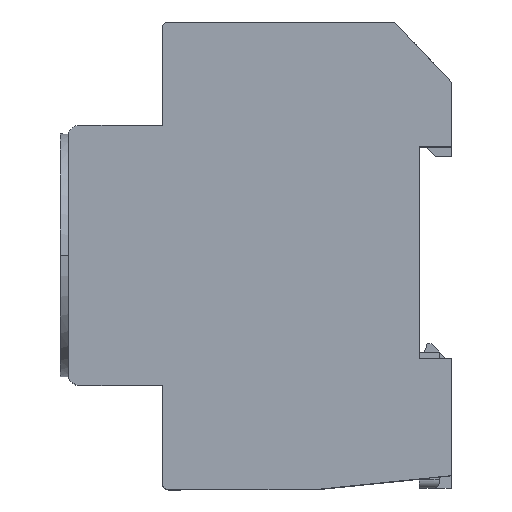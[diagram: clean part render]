
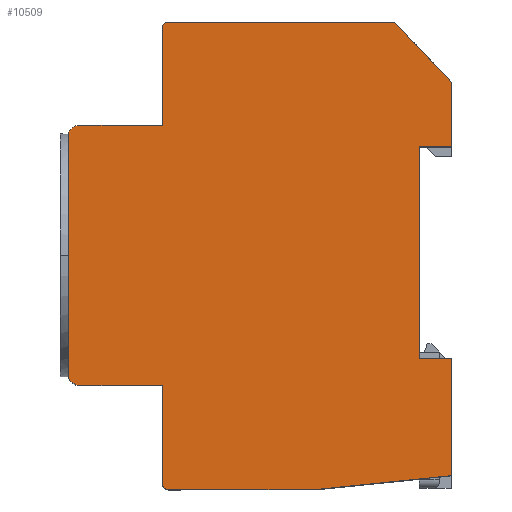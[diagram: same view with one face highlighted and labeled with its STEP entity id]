
A CAD part, top view. The second image highlights one B-rep face of the part: STEP entity #10509.
In plain terms, the highlighted planar face has unit normal (0, 0, 1).
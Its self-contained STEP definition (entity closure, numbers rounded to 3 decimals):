
#38 = VERTEX_POINT ( 'NONE', #11112 ) ;
#230 = ORIENTED_EDGE ( 'NONE', *, *, #5940, .F. ) ;
#248 = EDGE_CURVE ( 'NONE', #4969, #7939, #1623, .T. ) ;
#476 = EDGE_CURVE ( 'NONE', #10060, #9816, #7246, .T. ) ;
#525 = VECTOR ( 'NONE', #11940, 1000. ) ;
#719 = CARTESIAN_POINT ( 'NONE',  ( -14.3, 20., 44.3 ) ) ;
#847 = VERTEX_POINT ( 'NONE', #10214 ) ;
#947 = CARTESIAN_POINT ( 'NONE',  ( 0., 0., 44.3 ) ) ;
#1159 = LINE ( 'NONE', #3842, #12107 ) ;
#1333 = ORIENTED_EDGE ( 'NONE', *, *, #248, .F. ) ;
#1340 = DIRECTION ( 'NONE',  ( -1., 0., 0. ) ) ;
#1541 = AXIS2_PLACEMENT_3D ( 'NONE', #10105, #2372, #1340 ) ;
#1623 = LINE ( 'NONE', #9556, #10000 ) ;
#1685 = DIRECTION ( 'NONE',  ( 0., 0., 1. ) ) ;
#1700 = ORIENTED_EDGE ( 'NONE', *, *, #7341, .F. ) ;
#1792 = VERTEX_POINT ( 'NONE', #7991 ) ;
#1968 = CARTESIAN_POINT ( 'NONE',  ( 40.1, 80.8, 44.3 ) ) ;
#1980 = DIRECTION ( 'NONE',  ( 1., 0., 0. ) ) ;
#2109 = FACE_OUTER_BOUND ( 'NONE', #9469, .T. ) ;
#2178 = CARTESIAN_POINT ( 'NONE',  ( 50., 22.7, 44.3 ) ) ;
#2230 = EDGE_CURVE ( 'NONE', #5289, #12624, #11678, .T. ) ;
#2241 = EDGE_CURVE ( 'NONE', #4307, #10060, #3127, .T. ) ;
#2247 = VERTEX_POINT ( 'NONE', #3190 ) ;
#2372 = DIRECTION ( 'NONE',  ( 0., 0., 1. ) ) ;
#2546 = ORIENTED_EDGE ( 'NONE', *, *, #3907, .F. ) ;
#2788 = CIRCLE ( 'NONE', #1541, 2. ) ;
#2802 = CARTESIAN_POINT ( 'NONE',  ( 50., 80.8, 44.3 ) ) ;
#3022 = ORIENTED_EDGE ( 'NONE', *, *, #476, .F. ) ;
#3031 = VERTEX_POINT ( 'NONE', #4212 ) ;
#3127 = LINE ( 'NONE', #5224, #11476 ) ;
#3190 = CARTESIAN_POINT ( 'NONE',  ( -14.3, 63., 44.3 ) ) ;
#3287 = VERTEX_POINT ( 'NONE', #6962 ) ;
#3402 = ORIENTED_EDGE ( 'NONE', *, *, #11186, .F. ) ;
#3434 = VERTEX_POINT ( 'NONE', #2178 ) ;
#3513 = AXIS2_PLACEMENT_3D ( 'NONE', #11059, #10020, #8103 ) ;
#3559 = EDGE_CURVE ( 'NONE', #2247, #10095, #2788, .T. ) ;
#3688 = AXIS2_PLACEMENT_3D ( 'NONE', #719, #1685, #9547 ) ;
#3842 = CARTESIAN_POINT ( 'NONE',  ( 50., 22.7, 44.3 ) ) ;
#3907 = EDGE_CURVE ( 'NONE', #3287, #3031, #10985, .T. ) ;
#4095 = DIRECTION ( 'NONE',  ( 0., -1., 0. ) ) ;
#4191 = EDGE_CURVE ( 'NONE', #8818, #4307, #5725, .T. ) ;
#4212 = CARTESIAN_POINT ( 'NONE',  ( 40.1, 80.8, 44.3 ) ) ;
#4305 = VECTOR ( 'NONE', #8795, 1000. ) ;
#4307 = VERTEX_POINT ( 'NONE', #6172 ) ;
#4327 = EDGE_CURVE ( 'NONE', #11884, #38, #8914, .T. ) ;
#4403 = VECTOR ( 'NONE', #10904, 1000. ) ;
#4727 = LINE ( 'NONE', #7796, #12311 ) ;
#4789 = DIRECTION ( 'NONE',  ( -1., 0., 0. ) ) ;
#4882 = CARTESIAN_POINT ( 'NONE',  ( -16.3, 63., 44.3 ) ) ;
#4969 = VERTEX_POINT ( 'NONE', #10428 ) ;
#4984 = CARTESIAN_POINT ( 'NONE',  ( 50., 2.4, 44.3 ) ) ;
#5138 = LINE ( 'NONE', #12231, #8142 ) ;
#5211 = LINE ( 'NONE', #5467, #8191 ) ;
#5224 = CARTESIAN_POINT ( 'NONE',  ( 44.4, 59.2, 44.3 ) ) ;
#5286 = VECTOR ( 'NONE', #10255, 1000. ) ;
#5289 = VERTEX_POINT ( 'NONE', #11499 ) ;
#5329 = CARTESIAN_POINT ( 'NONE',  ( 44.4, 22.7, 44.3 ) ) ;
#5399 = CARTESIAN_POINT ( 'NONE',  ( 50., 0., 44.3 ) ) ;
#5467 = CARTESIAN_POINT ( 'NONE',  ( 0., 63., 44.3 ) ) ;
#5531 = DIRECTION ( 'NONE',  ( -1., 0., 0. ) ) ;
#5725 = LINE ( 'NONE', #2802, #9106 ) ;
#5867 = DIRECTION ( 'NONE',  ( 0.686, -0.728, 0. ) ) ;
#5890 = CARTESIAN_POINT ( 'NONE',  ( -16.3, 61., 44.3 ) ) ;
#5940 = EDGE_CURVE ( 'NONE', #9816, #3434, #4727, .T. ) ;
#5941 = DIRECTION ( 'NONE',  ( 0., 0., -1. ) ) ;
#6019 = CARTESIAN_POINT ( 'NONE',  ( -16.3, 18., 44.3 ) ) ;
#6170 = LINE ( 'NONE', #5399, #5286 ) ;
#6172 = CARTESIAN_POINT ( 'NONE',  ( 50., 59.2, 44.3 ) ) ;
#6179 = DIRECTION ( 'NONE',  ( 0., 1., 0. ) ) ;
#6199 = AXIS2_PLACEMENT_3D ( 'NONE', #7660, #9643, #9518 ) ;
#6368 = VERTEX_POINT ( 'NONE', #6823 ) ;
#6370 = EDGE_CURVE ( 'NONE', #3287, #1792, #11704, .T. ) ;
#6401 = ORIENTED_EDGE ( 'NONE', *, *, #3559, .T. ) ;
#6734 = ORIENTED_EDGE ( 'NONE', *, *, #10148, .F. ) ;
#6823 = CARTESIAN_POINT ( 'NONE',  ( -16.3, 20., 44.3 ) ) ;
#6876 = LINE ( 'NONE', #4882, #4305 ) ;
#6945 = CARTESIAN_POINT ( 'NONE',  ( 0., 80.8, 44.3 ) ) ;
#6962 = CARTESIAN_POINT ( 'NONE',  ( 1., 80.8, 44.3 ) ) ;
#7052 = ORIENTED_EDGE ( 'NONE', *, *, #12392, .T. ) ;
#7183 = CARTESIAN_POINT ( 'NONE',  ( 44.4, 57.6, 44.3 ) ) ;
#7218 = ORIENTED_EDGE ( 'NONE', *, *, #11102, .F. ) ;
#7246 = LINE ( 'NONE', #7183, #9787 ) ;
#7341 = EDGE_CURVE ( 'NONE', #5289, #4969, #5138, .T. ) ;
#7394 = EDGE_CURVE ( 'NONE', #38, #12624, #6170, .T. ) ;
#7404 = ORIENTED_EDGE ( 'NONE', *, *, #2241, .F. ) ;
#7614 = CARTESIAN_POINT ( 'NONE',  ( -14.3, 18., 44.3 ) ) ;
#7660 = CARTESIAN_POINT ( 'NONE',  ( 1., 79.8, 44.3 ) ) ;
#7796 = CARTESIAN_POINT ( 'NONE',  ( 44.4, 22.7, 44.3 ) ) ;
#7822 = ORIENTED_EDGE ( 'NONE', *, *, #8547, .F. ) ;
#7939 = VERTEX_POINT ( 'NONE', #7614 ) ;
#7991 = CARTESIAN_POINT ( 'NONE',  ( 0., 79.8, 44.3 ) ) ;
#8012 = DIRECTION ( 'NONE',  ( 0., -1., 0. ) ) ;
#8103 = DIRECTION ( 'NONE',  ( -1., 0., 0. ) ) ;
#8142 = VECTOR ( 'NONE', #9236, 1000. ) ;
#8191 = VECTOR ( 'NONE', #6179, 1000. ) ;
#8523 = ORIENTED_EDGE ( 'NONE', *, *, #2230, .T. ) ;
#8547 = EDGE_CURVE ( 'NONE', #3031, #8818, #12636, .T. ) ;
#8565 = ORIENTED_EDGE ( 'NONE', *, *, #6370, .T. ) ;
#8587 = CARTESIAN_POINT ( 'NONE',  ( 44.4, 59.2, 44.3 ) ) ;
#8704 = DIRECTION ( 'NONE',  ( 0., 1., 0. ) ) ;
#8756 = PLANE ( 'NONE',  #9874 ) ;
#8795 = DIRECTION ( 'NONE',  ( 1., 0., 0. ) ) ;
#8813 = VECTOR ( 'NONE', #8704, 1000. ) ;
#8818 = VERTEX_POINT ( 'NONE', #11675 ) ;
#8914 = LINE ( 'NONE', #11924, #4403 ) ;
#9027 = CARTESIAN_POINT ( 'NONE',  ( 1., 0., 44.3 ) ) ;
#9106 = VECTOR ( 'NONE', #12565, 1000. ) ;
#9236 = DIRECTION ( 'NONE',  ( 0., 1., 0. ) ) ;
#9469 = EDGE_LOOP ( 'NONE', ( #7404, #10849, #7822, #2546, #8565, #3402, #7218, #6401, #10895, #7052, #1333, #1700, #8523, #11781, #10915, #6734, #230, #3022 ) ) ;
#9518 = DIRECTION ( 'NONE',  ( -1., 0., 0. ) ) ;
#9547 = DIRECTION ( 'NONE',  ( -1., 0., 0. ) ) ;
#9556 = CARTESIAN_POINT ( 'NONE',  ( 0., 18., 44.3 ) ) ;
#9643 = DIRECTION ( 'NONE',  ( 0., 0., 1. ) ) ;
#9787 = VECTOR ( 'NONE', #8012, 1000. ) ;
#9816 = VERTEX_POINT ( 'NONE', #5329 ) ;
#9874 = AXIS2_PLACEMENT_3D ( 'NONE', #947, #5941, #4789 ) ;
#10000 = VECTOR ( 'NONE', #5531, 1000. ) ;
#10014 = CIRCLE ( 'NONE', #3688, 2. ) ;
#10020 = DIRECTION ( 'NONE',  ( 0., 0., 1. ) ) ;
#10060 = VERTEX_POINT ( 'NONE', #8587 ) ;
#10095 = VERTEX_POINT ( 'NONE', #5890 ) ;
#10105 = CARTESIAN_POINT ( 'NONE',  ( -14.3, 61., 44.3 ) ) ;
#10148 = EDGE_CURVE ( 'NONE', #3434, #11884, #1159, .T. ) ;
#10214 = CARTESIAN_POINT ( 'NONE',  ( 0., 63., 44.3 ) ) ;
#10255 = DIRECTION ( 'NONE',  ( -1., 0., 0. ) ) ;
#10428 = CARTESIAN_POINT ( 'NONE',  ( 0., 18., 44.3 ) ) ;
#10509 = ADVANCED_FACE ( 'NONE', ( #2109 ), #8756, .F. ) ;
#10849 = ORIENTED_EDGE ( 'NONE', *, *, #4191, .F. ) ;
#10895 = ORIENTED_EDGE ( 'NONE', *, *, #11909, .F. ) ;
#10904 = DIRECTION ( 'NONE',  ( -0.995, -0.101, 0. ) ) ;
#10915 = ORIENTED_EDGE ( 'NONE', *, *, #4327, .F. ) ;
#10985 = LINE ( 'NONE', #6945, #525 ) ;
#11059 = CARTESIAN_POINT ( 'NONE',  ( 1., 1., 44.3 ) ) ;
#11102 = EDGE_CURVE ( 'NONE', #2247, #847, #6876, .T. ) ;
#11112 = CARTESIAN_POINT ( 'NONE',  ( 26.4, 0., 44.3 ) ) ;
#11181 = DIRECTION ( 'NONE',  ( -1., 0., 0. ) ) ;
#11186 = EDGE_CURVE ( 'NONE', #847, #1792, #5211, .T. ) ;
#11476 = VECTOR ( 'NONE', #11181, 1000. ) ;
#11499 = CARTESIAN_POINT ( 'NONE',  ( 0., 1., 44.3 ) ) ;
#11675 = CARTESIAN_POINT ( 'NONE',  ( 50., 70.3, 44.3 ) ) ;
#11678 = CIRCLE ( 'NONE', #3513, 1. ) ;
#11704 = CIRCLE ( 'NONE', #6199, 1. ) ;
#11781 = ORIENTED_EDGE ( 'NONE', *, *, #7394, .F. ) ;
#11868 = VECTOR ( 'NONE', #5867, 1000. ) ;
#11884 = VERTEX_POINT ( 'NONE', #4984 ) ;
#11897 = LINE ( 'NONE', #6019, #8813 ) ;
#11909 = EDGE_CURVE ( 'NONE', #6368, #10095, #11897, .T. ) ;
#11924 = CARTESIAN_POINT ( 'NONE',  ( 26.4, 0., 44.3 ) ) ;
#11940 = DIRECTION ( 'NONE',  ( 1., 0., 0. ) ) ;
#12107 = VECTOR ( 'NONE', #4095, 1000. ) ;
#12231 = CARTESIAN_POINT ( 'NONE',  ( 0., 0., 44.3 ) ) ;
#12311 = VECTOR ( 'NONE', #1980, 1000. ) ;
#12392 = EDGE_CURVE ( 'NONE', #6368, #7939, #10014, .T. ) ;
#12565 = DIRECTION ( 'NONE',  ( 0., -1., 0. ) ) ;
#12624 = VERTEX_POINT ( 'NONE', #9027 ) ;
#12636 = LINE ( 'NONE', #1968, #11868 ) ;
